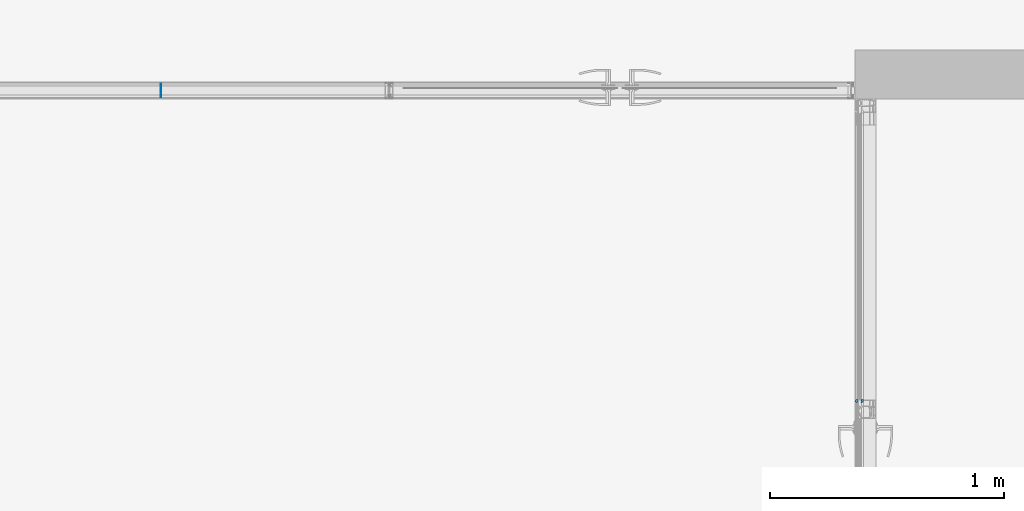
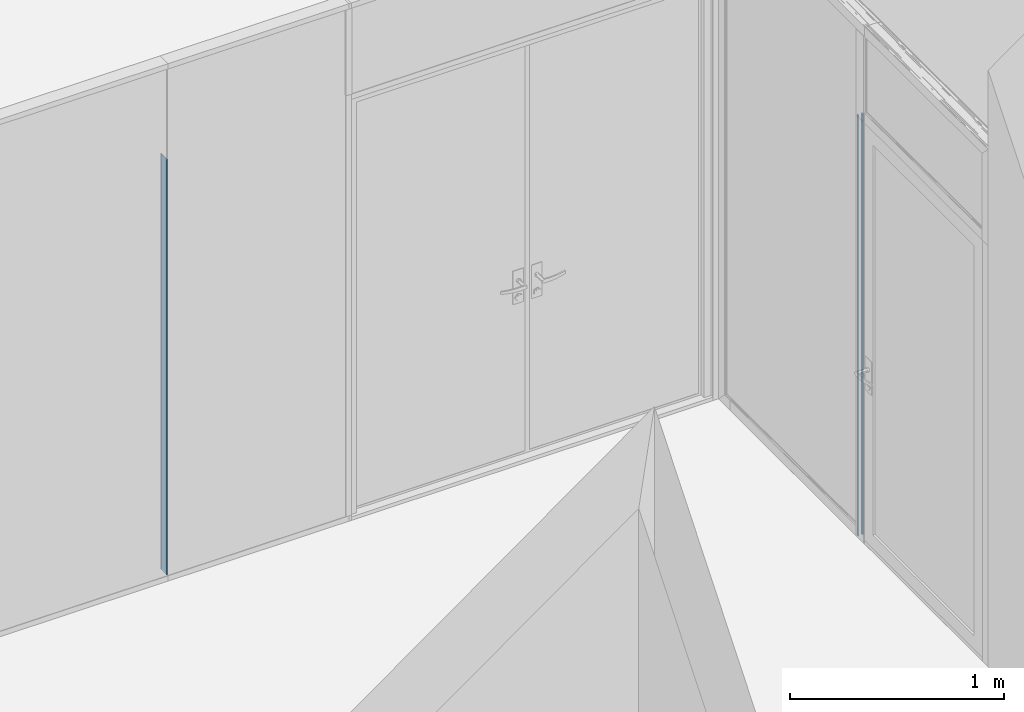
# One storey, part 20 of 62: 3 building element parts, 4 elements without a shape of their own.
"""IFC2X3 building model written with IfcOpenShell, lengths in millimetres."""

from ifc_helpers import new_model, entity, si_unit, converted_unit, derived_unit, money_unit, direction, frame, origin_with_axes, place, context, subcontext, project, spatial, faceted_brep, source, transform, mapped, material, type_object, element, aggregate, save


model = new_model("IFC2X3")

# Units and contexts
model_context = context("Model", 3, precision=0.01, world=origin_with_axes(), true_north=direction((0.0, 1.0)))
body_context = subcontext(model_context, "Body", "Model", "MODEL_VIEW")
ifc_project = project(units=[si_unit("LENGTHUNIT", "METRE", prefix="MILLI"), si_unit("AREAUNIT", "SQUARE_METRE"), si_unit("VOLUMEUNIT", "CUBIC_METRE"), converted_unit("PLANEANGLEUNIT", "DEGREE", entity("IfcPlaneAngleMeasure", 0.0174532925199), si_unit("PLANEANGLEUNIT", "RADIAN"), dimensions=[0, 0, 0, 0, 0, 0, 0]), si_unit("SOLIDANGLEUNIT", "STERADIAN"), money_unit("EUR"), converted_unit("TIMEUNIT", "Year", entity("IfcTimeMeasure", 31556926.0), si_unit("TIMEUNIT", "SECOND"), dimensions=[0, 0, 1, 0, 0, 0, 0]), si_unit("MASSUNIT", "GRAM", prefix="KILO"), si_unit("THERMODYNAMICTEMPERATUREUNIT", "DEGREE_CELSIUS"), si_unit("LUMINOUSINTENSITYUNIT", "LUMEN"), si_unit("ENERGYUNIT", "JOULE", prefix="MEGA"), derived_unit("THERMALCONDUCTANCEUNIT", [(si_unit("POWERUNIT", "WATT"), 1), (si_unit("LENGTHUNIT", "METRE"), -1), (si_unit("THERMODYNAMICTEMPERATUREUNIT", "KELVIN"), -1)]), derived_unit("SPECIFICHEATCAPACITYUNIT", [(si_unit("ENERGYUNIT", "JOULE"), 1), (si_unit("MASSUNIT", "GRAM", prefix="KILO"), -1), (si_unit("THERMODYNAMICTEMPERATUREUNIT", "KELVIN"), -1)]), derived_unit("MASSDENSITYUNIT", [(si_unit("MASSUNIT", "GRAM", prefix="KILO"), 1), (si_unit("VOLUMEUNIT", "CUBIC_METRE"), -1)])], contexts=[model_context])

# Site, building, storey
site_placement = place(None, origin_with_axes())
site = spatial("IfcSite", under=ifc_project, at=site_placement, Name="Puškini 31, Narva", CompositionType="ELEMENT")
building_placement = place(site_placement, origin_with_axes())
building = spatial("IfcBuilding", under=site, at=building_placement, Name="Narva Riigigümnaasium", CompositionType="ELEMENT")
storey_placement = place(building_placement, frame((0.0, 0.0, 660.0), z_axis=(0.0, 0.0, 1.0), x_axis=(1.0, 0.0, 0.0)))
storey = spatial("IfcBuildingStorey", under=building, at=storey_placement, Name="2.korrus +0.66", CompositionType="ELEMENT", Elevation=660.0)

# Curtain wall, member, building element parts
curtain_wall_type = type_object("IfcCurtainWallType", Name="Curtain Wall Type", PredefinedType="NOTDEFINED")
curtain_wall_1_placement = place(storey_placement, frame((45089.2571373, 223837.000216, -1.99739158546e-06), z_axis=(0.0, 0.0, 1.0), x_axis=(1.0, 0.0, 0.0)))
curtain_wall_1 = element("IfcCurtainWall", 1, at=curtain_wall_1_placement, inside=storey, type_object=curtain_wall_type, Name="G-SKLF-52")
member_type_1 = type_object("IfcMemberType", Name="3 x -35", PredefinedType="MULLION")
member_1_placement = place(curtain_wall_1_placement, frame((-558.057143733, 0.0, 0.0), z_axis=(0.0, 0.0, 1.0), x_axis=(1.0, 0.0, 0.0)))
member_1 = element("IfcMember", 2, at=member_1_placement, type_object=member_type_1, Name="G-SKLF-52-raam", ObjectType="MULLION")
aggregate(curtain_wall_1, [member_1])
ifc_material_1 = material(Name="Klaas")
shared_shape_1 = source(origin_with_axes(), body_context, "Body", "Brep", [
    faceted_brep([(1.5000138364, 20.0064497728, 30.0000193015), (1.5000138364, 20.0064497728, 2400.0), (-1.4999861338, 20.0064497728, 2400.0), (-1.4999861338, 20.0064497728, 30.0000193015), (1.5000138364, 29.0064496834, 30.0000193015), (1.5000138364, 29.0064496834, 2400.0), (-1.4999861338, 29.0064496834, 2400.0), (-1.4999861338, 29.0064496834, 30.0000193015)], [[[0, 1, 2, 3]], [[4, 5, 1, 0]], [[2, 1, 5, 6]], [[3, 2, 6, 7]], [[3, 7, 4, 0]], [[7, 6, 5, 4]]]),
    faceted_brep([(-1.4999861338, -28.9935503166, 30.0000193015), (-1.4999861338, -28.9935503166, 2400.0), (-1.4999861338, -19.993550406, 2400.0), (-1.4999861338, -19.993550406, 30.0000193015), (1.5000138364, -28.9935503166, 30.0000193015), (1.5000138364, -28.9935503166, 2400.0), (1.5000138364, -19.993550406, 2400.0), (1.5000138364, -19.993550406, 30.0000193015)], [[[0, 1, 2, 3]], [[4, 5, 1, 0]], [[2, 1, 5, 6]], [[3, 2, 6, 7]], [[3, 7, 4, 0]], [[7, 6, 5, 4]]]),
])
building_element_part_1_placement = place(member_1_placement, origin_with_axes())
building_element_part_1 = element("IfcBuildingElementPart", 3, at=building_element_part_1_placement, material=ifc_material_1, Name="Klaas", context=body_context, shape_type="MappedRepresentation", body=[
    mapped(shared_shape_1, transform((0.0, 0.0, 0.0))),
])
ifc_material_2 = material(Name="VKR-06_Õhkvahe")
shared_shape_2 = source(origin_with_axes(), body_context, "Body", "Brep", [
    faceted_brep([(-1.4999861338, -19.9935503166, 30.0000193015), (-1.4999861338, -19.9935503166, 2400.0), (-1.4999861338, 20.0064496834, 2400.0), (-1.4999861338, 20.0064496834, 30.0000193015), (1.5000138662, -19.9935503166, 30.0000193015), (1.5000138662, -19.9935503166, 2400.0), (1.5000138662, 20.0064496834, 2400.0), (1.5000138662, 20.0064496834, 30.0000193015)], [[[0, 1, 2, 3]], [[4, 5, 1, 0]], [[2, 1, 5, 6]], [[3, 2, 6, 7]], [[3, 7, 4, 0]], [[7, 6, 5, 4]]]),
])
building_element_part_2_placement = place(member_1_placement, origin_with_axes())
building_element_part_2 = element("IfcBuildingElementPart", 4, at=building_element_part_2_placement, material=ifc_material_2, Name="VKR-06_Õhkvahe", context=body_context, shape_type="MappedRepresentation", body=[
    mapped(shared_shape_2, transform((0.0, 0.0, 0.0))),
])
aggregate(member_1, [building_element_part_1, building_element_part_2])

# Curtain wall, member, building element part
curtain_wall_2_placement = place(storey_placement, frame((47544.998162, 221675.502168, -2.45869393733e-05), z_axis=(0.0, 0.0, 1.0), x_axis=(1.0, 0.0, 0.0)))
curtain_wall_2 = element("IfcCurtainWall", 5, at=curtain_wall_2_placement, inside=storey, type_object=curtain_wall_type, Name="G-SKLF-51")
member_type_2 = type_object("IfcMemberType", Name="82 x 45", PredefinedType="MULLION")
member_2_placement = place(curtain_wall_2_placement, frame((-0.00325715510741, 759.502197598, 0.0), z_axis=(0.0, 0.0, 1.0), x_axis=(-4.28853941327e-06, 0.999999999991, 0.0)))
member_2 = element("IfcMember", 6, at=member_2_placement, type_object=member_type_2, Name="G-SKLF-51-raam", ObjectType="MULLION")
aggregate(curtain_wall_2, [member_2])
ifc_material_3 = material(Name="Membraan - Veekindel")
shared_shape_3 = source(origin_with_axes(), body_context, "Body", "Brep", [
    faceted_brep([(74.9898926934, 16.6230552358, 0.0), (72.7204882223, 15.0100099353, 0.0), (72.7204882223, 15.0100099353, 2400.0), (74.9898926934, 16.6230552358, 2400.0), (77.1927259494, 16.806401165, 0.0), (79.5038972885, 16.8013439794, 0.0), (80.1029794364, 16.6395947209, 0.0), (80.5411647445, 16.2002134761, 0.0), (80.7012805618, 15.6006926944, 0.0), (80.5405112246, 15.001346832, 0.0), (78.7418652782, 10.0036443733, 0.0), (78.4882789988, 8.54540440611, 0.0), (78.4207620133, 8.4047573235, 0.0), (78.2917480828, 8.3170330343, 0.0), (78.1361285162, 8.30595622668, 0.0), (76.7361285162, 8.57808865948, 0.0), (76.601588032, 8.64188392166, 0.0), (76.5142922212, 8.76250903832, 0.0), (76.4957458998, 8.91024871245, 0.0), (76.6099827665, 9.81277248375, 0.0), (76.5838261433, 9.9781344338, 0.0), (76.4731258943, 10.1037298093, 0.0), (76.3123574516, 10.1504443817, 0.0), (74.2580290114, 10.1504443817, 0.0), (74.0859560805, 10.096189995, 0.0), (73.9761212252, 9.95305042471, 0.0), (73.5556584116, 8.79783833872, 0.0), (73.4722984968, 8.67558063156, 0.0), (73.3406152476, 8.60808734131, 0.0), (73.192689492, 8.61180126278, 0.0), (73.0645590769, 8.68581760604, 0.0), (66.8142070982, 15.4145273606, 0.0), (66.5501763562, 15.7474287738, 0.0), (66.5093924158, 16.1703616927, 0.0), (66.7049453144, 16.5475813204, 0.0), (67.0740702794, 16.7580150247, 0.0), (67.4982927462, 16.7341218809, 0.0), (71.7536994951, 15.2121692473, 0.0), (72.0437237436, 15.0307647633, 0.0), (72.2558878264, 14.9074571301, 0.0), (72.5011668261, 14.8999349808, 0.0), (72.5011668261, 14.8999349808, 2400.0), (72.2558878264, 14.9074571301, 2400.0), (72.0437237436, 15.0307647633, 2400.0), (71.7536994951, 15.2121692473, 2400.0), (67.4982927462, 16.7341218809, 2400.0), (67.0740702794, 16.7580150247, 2400.0), (66.7049453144, 16.5475813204, 2400.0), (66.5093924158, 16.1703616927, 2400.0), (66.5501763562, 15.7474287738, 2400.0), (66.8142070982, 15.4145273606, 2400.0), (73.0645590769, 8.68581760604, 2400.0), (73.192689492, 8.61180126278, 2400.0), (73.3406152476, 8.60808734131, 2400.0), (73.4722984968, 8.67558063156, 2400.0), (73.5556584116, 8.79783833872, 2400.0), (73.9761212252, 9.95305042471, 2400.0), (74.0859560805, 10.096189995, 2400.0), (74.2580290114, 10.1504443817, 2400.0), (76.3123574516, 10.1504443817, 2400.0), (76.4731258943, 10.1037298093, 2400.0), (76.5838261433, 9.9781344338, 2400.0), (76.6099827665, 9.81277248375, 2400.0), (76.4957458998, 8.91024871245, 2400.0), (76.5142922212, 8.76250903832, 2400.0), (76.601588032, 8.64188392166, 2400.0), (76.7361285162, 8.57808865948, 2400.0), (78.1361285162, 8.30595622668, 2400.0), (78.2917480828, 8.3170330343, 2400.0), (78.4207620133, 8.4047573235, 2400.0), (78.4882789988, 8.54540440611, 2400.0), (78.7418652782, 10.0036443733, 2400.0), (80.5405112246, 15.001346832, 2400.0), (80.7012805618, 15.6006926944, 2400.0), (80.5411647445, 16.2002134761, 2400.0), (80.1029794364, 16.6395947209, 2400.0), (79.5038972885, 16.8013439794, 2400.0), (77.1927259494, 16.806401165, 2400.0)], [[[0, 1, 2, 3]], [[0, 4, 5, 6, 7, 8, 9, 10, 11, 12, 13, 14, 15, 16, 17, 18, 19, 20, 21, 22, 23, 24, 25, 26, 27, 28, 29, 30, 31, 32, 33, 34, 35, 36, 37, 38, 39, 40, 1]], [[1, 40, 41, 2]], [[3, 2, 41, 42, 43, 44, 45, 46, 47, 48, 49, 50, 51, 52, 53, 54, 55, 56, 57, 58, 59, 60, 61, 62, 63, 64, 65, 66, 67, 68, 69, 70, 71, 72, 73, 74, 75, 76, 77]], [[4, 0, 3, 77]], [[5, 4, 77, 76]], [[6, 5, 76, 75]], [[7, 6, 75, 74]], [[8, 7, 74, 73]], [[9, 8, 73, 72]], [[10, 9, 72, 71]], [[11, 10, 71, 70]], [[12, 11, 70, 69]], [[13, 12, 69, 68]], [[14, 13, 68, 67]], [[15, 14, 67, 66]], [[16, 15, 66, 65]], [[17, 16, 65, 64]], [[18, 17, 64, 63]], [[19, 18, 63, 62]], [[20, 19, 62, 61]], [[21, 20, 61, 60]], [[22, 21, 60, 59]], [[23, 22, 59, 58]], [[24, 23, 58, 57]], [[25, 24, 57, 56]], [[26, 25, 56, 55]], [[27, 26, 55, 54]], [[28, 27, 54, 53]], [[29, 28, 53, 52]], [[30, 29, 52, 51]], [[31, 30, 51, 50]], [[32, 31, 50, 49]], [[33, 32, 49, 48]], [[34, 33, 48, 47]], [[35, 34, 47, 46]], [[36, 35, 46, 45]], [[37, 36, 45, 44]], [[38, 37, 44, 43]], [[39, 38, 43, 42]], [[40, 39, 42, 41]]]),
    faceted_brep([(72.8904310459, 42.4618935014, 0.0), (71.6876987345, 41.3119145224, 0.0), (71.6876987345, 41.3119145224, 2400.0), (72.8904310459, 42.4618935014, 2400.0), (73.0818844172, 42.5, 0.0), (74.717932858, 42.5, 0.0), (74.9093558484, 42.461906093, 0.0), (75.0716106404, 42.353428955, 0.0), (76.1122970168, 41.3120098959, 0.0), (76.1942964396, 41.1583915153, 0.0), (76.1771585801, 40.9851032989, 0.0), (76.0666568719, 40.8505228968, 0.0), (75.9000173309, 40.799988, 0.0), (75.800021, 40.799988, 0.0), (75.500021, 40.499988, 0.0), (75.500021, 39.200012, 0.0), (76.5000210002, 39.200012, 0.0), (78.5000022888, 39.2000007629, 0.0), (78.5000022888, 40.0000359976, 0.0), (78.7000161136, 39.9464425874, 0.0), (78.8464370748, 39.8000230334, 0.0), (78.9000324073, 39.6000097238, 0.0), (79.1693613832, 36.5266395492, 0.0), (79.6755028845, 35.3629012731, 0.0), (80.7800222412, 34.7379988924, 0.0), (82.041102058, 34.4928127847, 0.0), (82.2412066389, 34.3909158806, 0.0), (82.3536959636, 34.1965683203, 0.0), (82.3423779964, 33.9722990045, 0.0), (82.2108941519, 33.7902637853, 0.0), (69.647137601, 33.7902637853, 0.0), (68.8997554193, 34.9006000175, 0.0), (68.9000321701, 38.9000291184, 0.0), (68.9402207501, 39.0500149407, 0.0), (69.0500179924, 39.159812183, 0.0), (69.2000038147, 39.2000007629, 0.0), (71.30004, 39.2000007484, 0.0), (72.30004, 39.200012, 0.0), (72.30004, 40.499988, 0.0), (72.2598476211, 40.649988, 0.0), (72.15004, 40.7597956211, 0.0), (72.00004, 40.799988, 0.0), (71.900046, 40.799988, 0.0), (71.7334350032, 40.8505059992, 0.0), (71.6229356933, 40.9850466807, 0.0), (71.6057623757, 41.1582990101, 0.0), (71.6057623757, 41.1582990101, 2400.0), (71.6229356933, 40.9850466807, 2400.0), (71.7334350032, 40.8505059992, 2400.0), (71.900046, 40.799988, 2400.0), (72.00004, 40.799988, 2400.0), (72.15004, 40.7597956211, 2400.0), (72.2598476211, 40.649988, 2400.0), (72.30004, 40.499988, 2400.0), (72.30004, 39.200012, 2400.0), (71.30004, 39.2000007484, 2400.0), (69.2000038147, 39.2000007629, 2400.0), (69.0500179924, 39.159812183, 2400.0), (68.9402207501, 39.0500149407, 2400.0), (68.9000321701, 38.9000291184, 2400.0), (68.8997554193, 34.9006000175, 2400.0), (69.647137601, 33.7902637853, 2400.0), (82.2108941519, 33.7902637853, 2400.0), (82.3423779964, 33.9722990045, 2400.0), (82.3536959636, 34.1965683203, 2400.0), (82.2412066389, 34.3909158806, 2400.0), (82.041102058, 34.4928127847, 2400.0), (80.7800222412, 34.7379988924, 2400.0), (79.6755028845, 35.3629012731, 2400.0), (79.1693613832, 36.5266395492, 2400.0), (78.9000324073, 39.6000097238, 2400.0), (78.8464370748, 39.8000230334, 2400.0), (78.7000161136, 39.9464425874, 2400.0), (78.5000022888, 40.0000359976, 2400.0), (78.5000022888, 39.2000007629, 2400.0), (76.5000210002, 39.200012, 2400.0), (75.500021, 39.200012, 2400.0), (75.500021, 40.499988, 2400.0), (75.800021, 40.799988, 2400.0), (75.9000173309, 40.799988, 2400.0), (76.0666568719, 40.8505228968, 2400.0), (76.1771585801, 40.9851032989, 2400.0), (76.1942964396, 41.1583915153, 2400.0), (76.1122970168, 41.3120098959, 2400.0), (75.0716106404, 42.353428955, 2400.0), (74.9093558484, 42.461906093, 2400.0), (74.717932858, 42.5, 2400.0), (73.0818844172, 42.5, 2400.0)], [[[0, 1, 2, 3]], [[0, 4, 5, 6, 7, 8, 9, 10, 11, 12, 13, 14, 15, 16, 17, 18, 19, 20, 21, 22, 23, 24, 25, 26, 27, 28, 29, 30, 31, 32, 33, 34, 35, 36, 37, 38, 39, 40, 41, 42, 43, 44, 45, 1]], [[1, 45, 46, 2]], [[3, 2, 46, 47, 48, 49, 50, 51, 52, 53, 54, 55, 56, 57, 58, 59, 60, 61, 62, 63, 64, 65, 66, 67, 68, 69, 70, 71, 72, 73, 74, 75, 76, 77, 78, 79, 80, 81, 82, 83, 84, 85, 86, 87]], [[4, 0, 3, 87]], [[5, 4, 87, 86]], [[6, 5, 86, 85]], [[7, 6, 85, 84]], [[8, 7, 84, 83]], [[9, 8, 83, 82]], [[10, 9, 82, 81]], [[11, 10, 81, 80]], [[12, 11, 80, 79]], [[13, 12, 79, 78]], [[14, 13, 78, 77]], [[15, 14, 77, 76]], [[16, 15, 76, 75]], [[17, 16, 75, 74]], [[18, 17, 74, 73]], [[19, 18, 73, 72]], [[20, 19, 72, 71]], [[21, 20, 71, 70]], [[22, 21, 70, 69]], [[23, 22, 69, 68]], [[24, 23, 68, 67]], [[25, 24, 67, 66]], [[26, 25, 66, 65]], [[27, 26, 65, 64]], [[28, 27, 64, 63]], [[29, 28, 63, 62]], [[30, 29, 62, 61]], [[31, 30, 61, 60]], [[32, 31, 60, 59]], [[33, 32, 59, 58]], [[34, 33, 58, 57]], [[35, 34, 57, 56]], [[36, 35, 56, 55]], [[37, 36, 55, 54]], [[38, 37, 54, 53]], [[39, 38, 53, 52]], [[40, 39, 52, 51]], [[41, 40, 51, 50]], [[42, 41, 50, 49]], [[43, 42, 49, 48]], [[44, 43, 48, 47]], [[45, 44, 47, 46]]]),
])
building_element_part_3_placement = place(member_2_placement, origin_with_axes())
building_element_part_3 = element("IfcBuildingElementPart", 7, at=building_element_part_3_placement, material=ifc_material_3, Name="Membraan - Veekindel", context=body_context, shape_type="MappedRepresentation", body=[
    mapped(shared_shape_3, transform((0.0, 0.0, 0.0))),
])
aggregate(member_2, [building_element_part_3])

save(model, "model.ifc")
